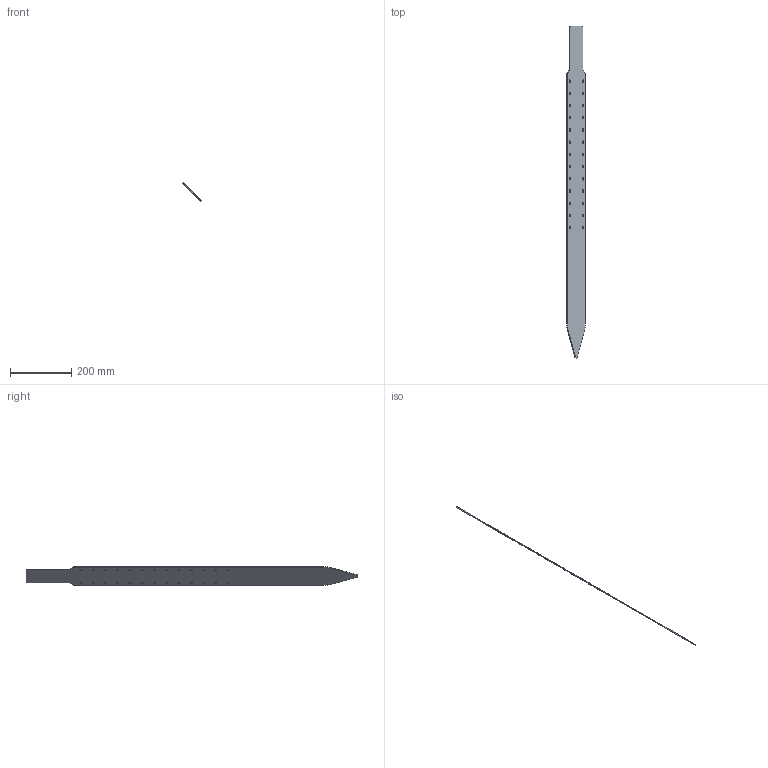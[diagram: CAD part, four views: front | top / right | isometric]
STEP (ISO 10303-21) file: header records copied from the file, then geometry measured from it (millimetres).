
FILE_DESCRIPTION (( 'STEP AP214' ), '1' );
FILE_NAME ('MONO_038-p202_02 (Option 1 - Folded) FLAT PATTERN.STEP', '2026-03-24T00:19:55', ( '' ), ( '' ), 'SwSTEP 2.0', 'SolidWorks 2024', '' );
FILE_SCHEMA (( 'AUTOMOTIVE_DESIGN' ));
Length unit declared in the file: millimetre
Products named in the file (1): MONO_038-p202_02 (Option 1 - Folded) FLAT PATTERN
Bounding box: 62.07 x 1087.45 x 62.07 mm (x, y, z)
Volume: 249844.6 mm3; surface area: 175307.4 mm2
Topology: 1 solids, 1 shells, 46 faces, 158 edges, 114 vertices
Faces by surface type: cylinder 34, plane 12
Full cylindrical faces by diameter (mm): 8 x26
Entity records: 1541 total; most frequent: DIRECTION 268, CARTESIAN_POINT 241, ORIENTED_EDGE 212, EDGE_LOOP 124, AXIS2_PLACEMENT_3D 115, EDGE_CURVE 106, VERTEX_POINT 88, FACE_OUTER_BOUND 72
